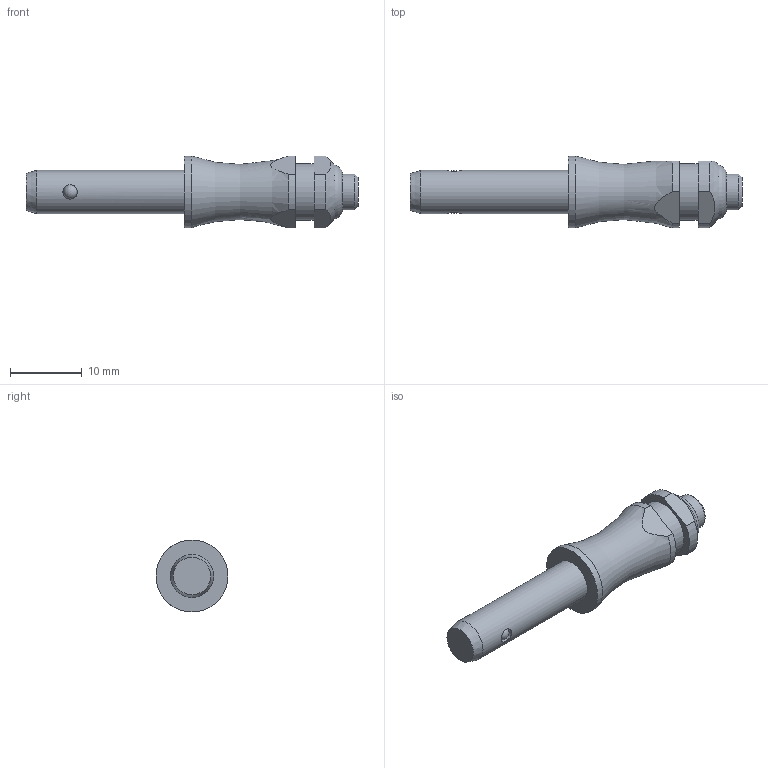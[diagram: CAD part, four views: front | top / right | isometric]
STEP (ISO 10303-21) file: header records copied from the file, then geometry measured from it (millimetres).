
FILE_DESCRIPTION( ( 'STEP AP203' ), '1' );
FILE_NAME( 'C:/Temp/Ganter_Step_05_03_2020/data/3_1/gn113_3/Stainless Steel-Ball lock pin GN 113.3-6-15 (activated).stp', '2020-03-12T08:18:15', ( 'License CC BY-ND 4.0' ), ( 'CADENAS' ), ' ', 'PARTsolutions', ' ' );
FILE_SCHEMA( ( 'CONFIG_CONTROL_DESIGN' ) );
Length unit declared in the file: millimetre
Products named in the file (1): _Stainless Steel-Ball lock pin GN 113.3-6-15 (activated)
Bounding box: 46.15 x 10 x 10 mm (x, y, z)
Volume: 1913.3 mm3; surface area: 1216.5 mm2
Topology: 1 solids, 1 shells, 31 faces, 73 edges, 46 vertices
Faces by surface type: plane 12, cylinder 12, cone 3, torus 2, sphere 2
Full cylindrical faces by diameter (mm): 2 x2, 5 x1, 6 x1, 7.9 x1, 10 x1
Entity records: 962 total; most frequent: CARTESIAN_POINT 298, DIRECTION 134, ORIENTED_EDGE 104, AXIS2_PLACEMENT_3D 58, EDGE_CURVE 52, EDGE_LOOP 48, VERTEX_POINT 40, FACE_OUTER_BOUND 39
